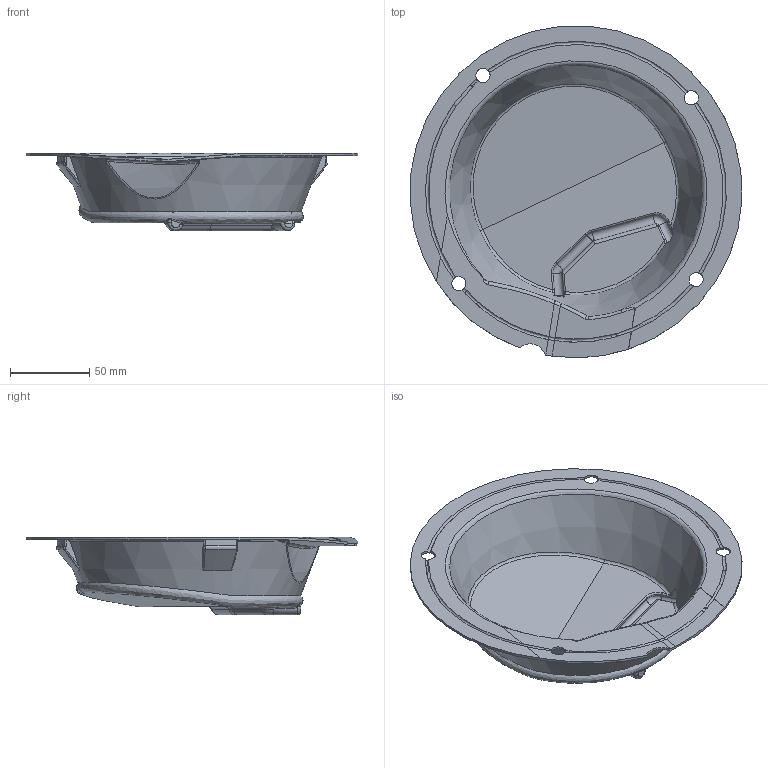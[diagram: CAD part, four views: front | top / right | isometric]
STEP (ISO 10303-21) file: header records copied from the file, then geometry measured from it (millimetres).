
FILE_DESCRIPTION(/* description */ ('Unknown','CAx-IF Rec.Pracs.---Representation and Presentation of Product Manufacturing Information (PMI)---4.0---2014-10-13','CAx-IF Rec.Pracs.---3D Tessellated Geometry---0.4---2014-09-14','2;1'),/* implementation_level */ '2;1');
FILE_NAME(/* name */ 'derecho altavoz cobertura',/* time_stamp */ '2025-01-25T11:26:52+01:00',/* author */ ('Unknown'),/* organization */ ('Unknown'),/* preprocessor_version */ 'ST-DEVELOPER v16.7',/* originating_system */ 'Solid Edge',/* authorisation */ 'Unknown');
FILE_SCHEMA (('AP242_MANAGED_MODEL_BASED_3D_ENGINEERING_MIM_LF { 1 0 10303 442 1 1 4 }'));
Length unit declared in the file: millimetre
Products named in the file (1): derecho altavoz cobertura
Bounding box: 209.68 x 209.65 x 49 mm (x, y, z)
Volume: 100846 mm3; surface area: 98589.6 mm2
Topology: 1 solids, 1 shells, 227 faces, 621 edges, 388 vertices
Faces by surface type: plane 69, bspline 62, cylinder 53, torus 31, cone 11, sphere 1
Full cylindrical faces by diameter (mm): 9 x4
Entity records: 10774 total; most frequent: CARTESIAN_POINT 5619, ORIENTED_EDGE 1204, DIRECTION 907, EDGE_CURVE 602, VERTEX_POINT 381, AXIS2_PLACEMENT_3D 354, EDGE_LOOP 243, FACE_BOUND 243
